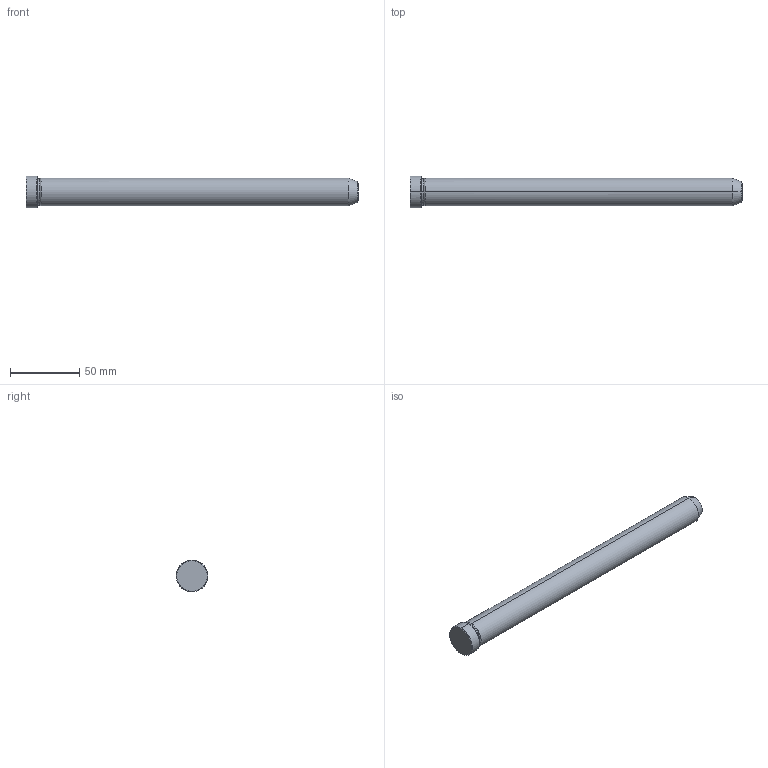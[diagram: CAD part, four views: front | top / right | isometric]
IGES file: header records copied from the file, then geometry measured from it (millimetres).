
Start section: START RECORD GO HERE.
Global section: file name: 549-20X240.igs; native system: DASSAULT SYSTEMES CATIA V5 R20 - www.3ds.com; preprocessor: CATIA Version 5 Release 20 ; author: Utente; organization: NB04-ASUS; date: 20211211.105616; units: millimetre
Bounding box: 240 x 23 x 23 mm (x, y, z)
Surface area: 15798.9 mm2 (no closed solid volume)
Topology: 0 solids, 0 shells, 19 faces, 112 edges, 112 vertices
Faces by surface type: revolution 16, plane 3
